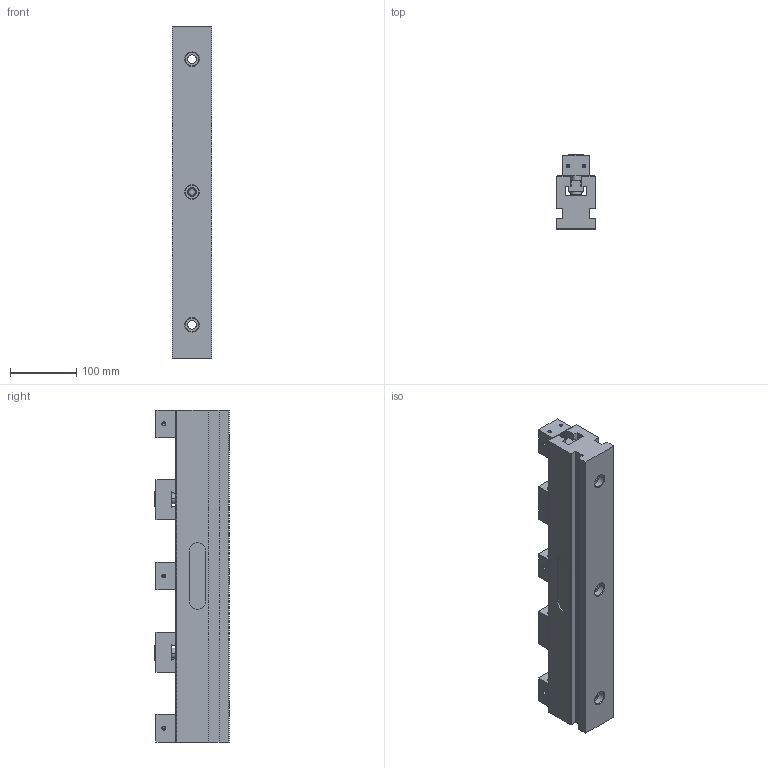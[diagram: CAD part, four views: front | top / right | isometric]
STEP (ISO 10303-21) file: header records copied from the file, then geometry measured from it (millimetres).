
FILE_DESCRIPTION((''),'2;1');
FILE_NAME('FG_VC_RAIL_00500NP001_ASM','2026-03-24T16:09:53',('Admin'),(''),'CREO PARAMETRIC BY PTC INC, 2025010','CREO PARAMETRIC BY PTC INC, 2025010','');
FILE_SCHEMA(('CONFIG_CONTROL_DESIGN'));
Products named in the file (5): BODY_500RAIL_VICE_; UNIFORCE_CLAMP_SIZE_03; FIXED_CLAMPING_JAW_S3_ASM; ISO4762-M16X45-10_9; FG_VC_RAIL_00500NP001_ASM
Assembly tree (8 placements, depth 2):
  FG_VC_RAIL_00500NP001_ASM
    BODY_500RAIL_VICE_
    UNIFORCE_CLAMP_SIZE_03  x2
    FIXED_CLAMPING_JAW_S3_ASM  x3
    ISO4762-M16X45-10_9  x2
Bounding box: 60 x 111.5 x 500 mm (x, y, z)
Volume: 2113993.2 mm3; surface area: 319959.9 mm2
Topology: 8 solids, 50 shells, 6337 faces, 18366 edges, 12234 vertices
Faces by surface type: plane 6073, cylinder 202, cone 52, torus 10
Entity records: 191632 total; most frequent: CARTESIAN_POINT 35163, ORIENTED_EDGE 34308, DIRECTION 29168, EDGE_CURVE 17188, VECTOR 16900, LINE 16900, VERTEX_POINT 11464, AXIS2_PLACEMENT_3D 6134
